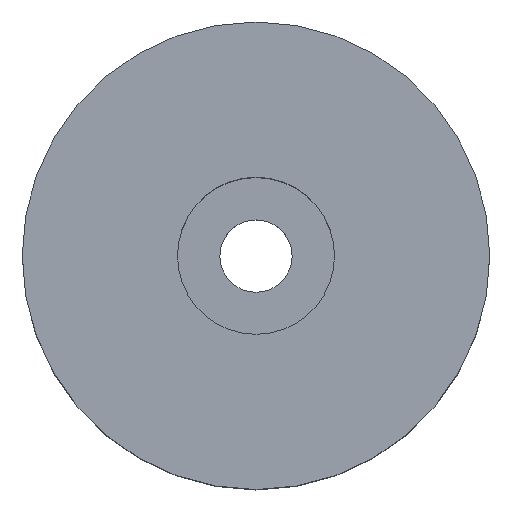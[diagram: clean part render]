
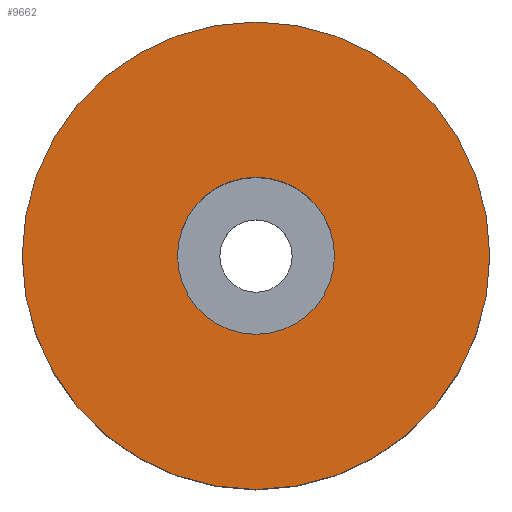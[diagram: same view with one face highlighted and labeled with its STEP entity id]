
A CAD part, top view. The second image highlights one B-rep face of the part: STEP entity #9662.
In plain terms, the highlighted planar face has unit normal (0, 0, 1).
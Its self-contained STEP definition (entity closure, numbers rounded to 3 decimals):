
#3562 = CYLINDRICAL_SURFACE('',#3563,7.889);
#3563 = AXIS2_PLACEMENT_3D('',#3564,#3565,#3566);
#3564 = CARTESIAN_POINT('',(0.,0.,7.45));
#3565 = DIRECTION('',(0.,0.,1.));
#3566 = DIRECTION('',(1.,0.,-0.));
#9514 = EDGE_CURVE('',#9515,#9515,#9517,.T.);
#9515 = VERTEX_POINT('',#9516);
#9516 = CARTESIAN_POINT('',(7.889,0.,8.5));
#9517 = SURFACE_CURVE('',#9518,(#9523,#9530),.PCURVE_S1.);
#9518 = CIRCLE('',#9519,7.889);
#9519 = AXIS2_PLACEMENT_3D('',#9520,#9521,#9522);
#9520 = CARTESIAN_POINT('',(0.,0.,8.5));
#9521 = DIRECTION('',(0.,0.,1.));
#9522 = DIRECTION('',(1.,0.,-0.));
#9523 = PCURVE('',#3562,#9524);
#9524 = DEFINITIONAL_REPRESENTATION('',(#9525),#9529);
#9525 = LINE('',#9526,#9527);
#9526 = CARTESIAN_POINT('',(0.,1.05));
#9527 = VECTOR('',#9528,1.);
#9528 = DIRECTION('',(1.,0.));
#9529 = ( GEOMETRIC_REPRESENTATION_CONTEXT(2) 
PARAMETRIC_REPRESENTATION_CONTEXT() REPRESENTATION_CONTEXT('2D SPACE',''
  ) );
#9530 = PCURVE('',#9531,#9536);
#9531 = PLANE('',#9532);
#9532 = AXIS2_PLACEMENT_3D('',#9533,#9534,#9535);
#9533 = CARTESIAN_POINT('',(0.,0.,8.5));
#9534 = DIRECTION('',(0.,0.,1.));
#9535 = DIRECTION('',(1.,0.,-0.));
#9536 = DEFINITIONAL_REPRESENTATION('',(#9537),#9541);
#9537 = CIRCLE('',#9538,7.889);
#9538 = AXIS2_PLACEMENT_2D('',#9539,#9540);
#9539 = CARTESIAN_POINT('',(0.,0.));
#9540 = DIRECTION('',(1.,0.));
#9541 = ( GEOMETRIC_REPRESENTATION_CONTEXT(2) 
PARAMETRIC_REPRESENTATION_CONTEXT() REPRESENTATION_CONTEXT('2D SPACE',''
  ) );
#9662 = ADVANCED_FACE('',(#9663,#9666),#9531,.T.);
#9663 = FACE_BOUND('',#9664,.T.);
#9664 = EDGE_LOOP('',(#9665));
#9665 = ORIENTED_EDGE('',*,*,#9514,.T.);
#9666 = FACE_BOUND('',#9667,.T.);
#9667 = EDGE_LOOP('',(#9668));
#9668 = ORIENTED_EDGE('',*,*,#9669,.F.);
#9669 = EDGE_CURVE('',#9670,#9670,#9672,.T.);
#9670 = VERTEX_POINT('',#9671);
#9671 = CARTESIAN_POINT('',(2.65,0.,8.5));
#9672 = SURFACE_CURVE('',#9673,(#9678,#9685),.PCURVE_S1.);
#9673 = CIRCLE('',#9674,2.65);
#9674 = AXIS2_PLACEMENT_3D('',#9675,#9676,#9677);
#9675 = CARTESIAN_POINT('',(0.,0.,8.5));
#9676 = DIRECTION('',(0.,0.,1.));
#9677 = DIRECTION('',(1.,0.,-0.));
#9678 = PCURVE('',#9531,#9679);
#9679 = DEFINITIONAL_REPRESENTATION('',(#9680),#9684);
#9680 = CIRCLE('',#9681,2.65);
#9681 = AXIS2_PLACEMENT_2D('',#9682,#9683);
#9682 = CARTESIAN_POINT('',(0.,0.));
#9683 = DIRECTION('',(1.,0.));
#9684 = ( GEOMETRIC_REPRESENTATION_CONTEXT(2) 
PARAMETRIC_REPRESENTATION_CONTEXT() REPRESENTATION_CONTEXT('2D SPACE',''
  ) );
#9685 = PCURVE('',#9686,#9691);
#9686 = CYLINDRICAL_SURFACE('',#9687,2.65);
#9687 = AXIS2_PLACEMENT_3D('',#9688,#9689,#9690);
#9688 = CARTESIAN_POINT('',(0.,0.,2.));
#9689 = DIRECTION('',(0.,0.,1.));
#9690 = DIRECTION('',(1.,0.,-0.));
#9691 = DEFINITIONAL_REPRESENTATION('',(#9692),#9696);
#9692 = LINE('',#9693,#9694);
#9693 = CARTESIAN_POINT('',(0.,6.5));
#9694 = VECTOR('',#9695,1.);
#9695 = DIRECTION('',(1.,0.));
#9696 = ( GEOMETRIC_REPRESENTATION_CONTEXT(2) 
PARAMETRIC_REPRESENTATION_CONTEXT() REPRESENTATION_CONTEXT('2D SPACE',''
  ) );
